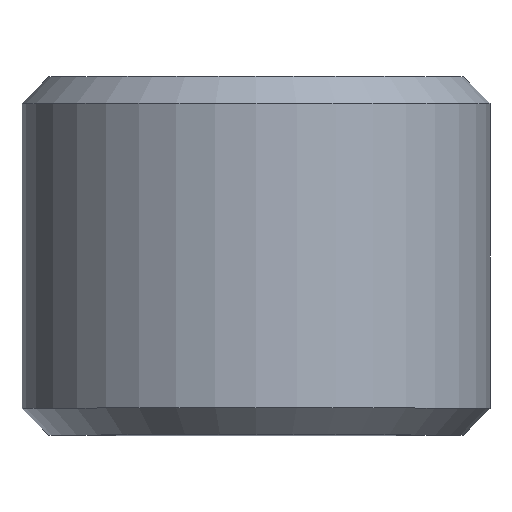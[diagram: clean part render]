
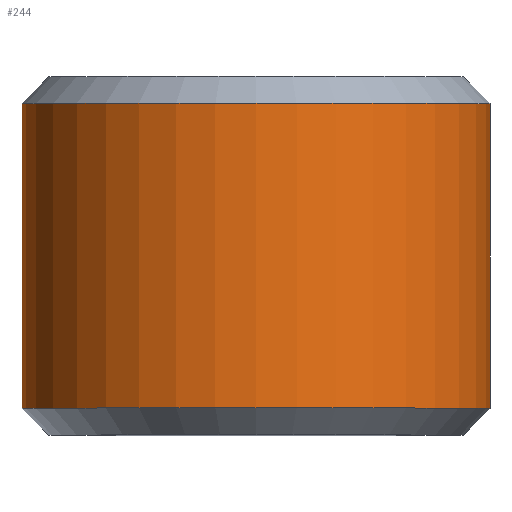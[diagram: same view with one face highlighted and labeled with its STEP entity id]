
A CAD part, top view. The second image highlights one B-rep face of the part: STEP entity #244.
In plain terms, the highlighted cylindrical face has radius 6.516 mm (diameter 13.032 mm), a full revolution.
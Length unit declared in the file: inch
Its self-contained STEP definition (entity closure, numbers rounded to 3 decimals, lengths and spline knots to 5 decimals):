
#16=CYLINDRICAL_SURFACE('',#274,0.25654);
#18=CIRCLE('',#272,0.25654);
#19=CIRCLE('',#273,0.25654);
#20=CIRCLE('',#275,0.25654);
#21=CIRCLE('',#276,0.25654);
#34=FACE_OUTER_BOUND('',#47,.T.);
#47=EDGE_LOOP('',(#193,#194,#195,#196,#197,#198));
#67=LINE('',#425,#83);
#83=VECTOR('',#321,0.267);
#117=VERTEX_POINT('',#418);
#118=VERTEX_POINT('',#420);
#119=VERTEX_POINT('',#424);
#120=VERTEX_POINT('',#426);
#149=EDGE_CURVE('',#117,#118,#18,.F.);
#150=EDGE_CURVE('',#118,#117,#19,.F.);
#151=EDGE_CURVE('',#118,#119,#67,.T.);
#152=EDGE_CURVE('',#120,#119,#20,.F.);
#153=EDGE_CURVE('',#119,#120,#21,.F.);
#193=ORIENTED_EDGE('',*,*,#150,.F.);
#194=ORIENTED_EDGE('',*,*,#151,.T.);
#195=ORIENTED_EDGE('',*,*,#152,.F.);
#196=ORIENTED_EDGE('',*,*,#153,.F.);
#197=ORIENTED_EDGE('',*,*,#151,.F.);
#198=ORIENTED_EDGE('',*,*,#149,.F.);
#244=ADVANCED_FACE('',(#34),#16,.T.);
#272=AXIS2_PLACEMENT_3D('',#421,#315,#316);
#273=AXIS2_PLACEMENT_3D('',#422,#317,#318);
#274=AXIS2_PLACEMENT_3D('',#423,#319,#320);
#275=AXIS2_PLACEMENT_3D('',#427,#322,#323);
#276=AXIS2_PLACEMENT_3D('',#428,#324,#325);
#315=DIRECTION('center_axis',(0.,1.,0.));
#316=DIRECTION('ref_axis',(0.,0.,-1.));
#317=DIRECTION('center_axis',(0.,1.,0.));
#318=DIRECTION('ref_axis',(0.,0.,-1.));
#319=DIRECTION('center_axis',(0.,-1.,0.));
#320=DIRECTION('ref_axis',(0.,0.,-1.));
#321=DIRECTION('',(0.,1.,0.));
#322=DIRECTION('center_axis',(0.,-1.,0.));
#323=DIRECTION('ref_axis',(0.,0.,-1.));
#324=DIRECTION('center_axis',(0.,-1.,0.));
#325=DIRECTION('ref_axis',(0.,0.,-1.));
#418=CARTESIAN_POINT('',(0.,0.02954,-0.25654));
#420=CARTESIAN_POINT('',(0.,0.02954,0.25654));
#421=CARTESIAN_POINT('Origin',(0.,0.02954,0.));
#422=CARTESIAN_POINT('Origin',(0.,0.02954,0.));
#423=CARTESIAN_POINT('Origin',(0.,0.1965,0.));
#424=CARTESIAN_POINT('',(0.,0.36346,0.25654));
#425=CARTESIAN_POINT('',(0.,0.1965,0.25654));
#426=CARTESIAN_POINT('',(0.,0.36346,-0.25654));
#427=CARTESIAN_POINT('Origin',(0.,0.36346,0.));
#428=CARTESIAN_POINT('Origin',(0.,0.36346,0.));
